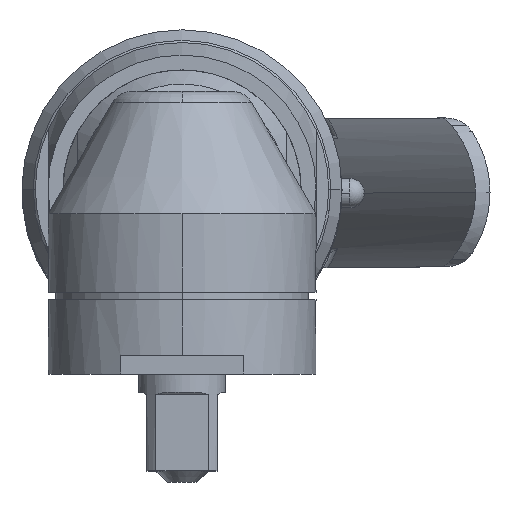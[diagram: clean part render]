
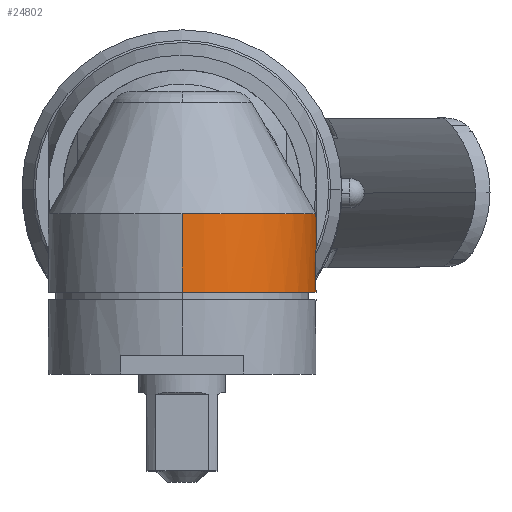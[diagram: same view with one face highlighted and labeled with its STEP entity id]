
A CAD part, top view. The second image highlights one B-rep face of the part: STEP entity #24802.
In plain terms, the highlighted cylindrical face has radius 18 mm (diameter 36 mm), a partial arc.
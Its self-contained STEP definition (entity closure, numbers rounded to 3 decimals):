
#11135 = CARTESIAN_POINT ( 'NONE',  ( 0., -14., 18. ) ) ;
#11136 = CARTESIAN_POINT ( 'NONE',  ( 0., -14., -18. ) ) ;
#11203 = CYLINDRICAL_SURFACE ( 'NONE', #11263, 18. ) ;
#11204 = FACE_OUTER_BOUND ( 'NONE', #24803, .T. ) ;
#11211 = CARTESIAN_POINT ( 'NONE',  ( 0., -3.454, 18. ) ) ;
#11212 = DIRECTION ( 'NONE',  ( 0., 1., 0. ) ) ;
#11213 = VECTOR ( 'NONE', #11212, 1000. ) ;
#11214 = CARTESIAN_POINT ( 'NONE',  ( 0., 18.453, 18. ) ) ;
#11215 = LINE ( 'NONE', #11214, #11213 ) ;
#11232 = B_SPLINE_CURVE_WITH_KNOTS ( 'NONE', 3,
 ( #11291, #11290, #11289, #11288, #11287, #11286, #11285, #11284, #11283, #11282, #11281, #11280, #11279, #11278, #11277, #11276, #11275, #11274, #11273, #11272, #11271, #11270, #11269, #11268 ),
 .UNSPECIFIED., .F., .F.,
 ( 4, 2, 2, 2, 2, 2, 2, 2, 2, 2, 2, 4 ),
 ( 0.02, 0.022, 0.023, 0.024, 0.027, 0.029, 0.031, 0.032, 0.034, 0.035, 0.037, 0.039 ),
 .UNSPECIFIED. ) ;
#11233 = DIRECTION ( 'NONE',  ( 0., 0., 1. ) ) ;
#11234 = DIRECTION ( 'NONE',  ( 0., 1., 0. ) ) ;
#11235 = CARTESIAN_POINT ( 'NONE',  ( 0., -14., 0. ) ) ;
#11236 = AXIS2_PLACEMENT_3D ( 'NONE', #11235, #11234, #11233 ) ;
#11237 = CIRCLE ( 'NONE', #11236, 18. ) ;
#11260 = DIRECTION ( 'NONE',  ( 0., 0., 1. ) ) ;
#11261 = DIRECTION ( 'NONE',  ( 0., 1., 0. ) ) ;
#11262 = CARTESIAN_POINT ( 'NONE',  ( 0., 18.453, 0. ) ) ;
#11263 = AXIS2_PLACEMENT_3D ( 'NONE', #11262, #11261, #11260 ) ;
#11267 = CIRCLE ( 'NONE', #11309, 18. ) ;
#11268 = CARTESIAN_POINT ( 'NONE',  ( 13.567, -3.454, -11.829 ) ) ;
#11269 = CARTESIAN_POINT ( 'NONE',  ( 13.371, -4.224, -12.054 ) ) ;
#11270 = CARTESIAN_POINT ( 'NONE',  ( 13.117, -4.953, -12.335 ) ) ;
#11271 = CARTESIAN_POINT ( 'NONE',  ( 12.655, -5.999, -12.802 ) ) ;
#11272 = CARTESIAN_POINT ( 'NONE',  ( 12.488, -6.339, -12.965 ) ) ;
#11273 = CARTESIAN_POINT ( 'NONE',  ( 12.133, -6.996, -13.299 ) ) ;
#11274 = CARTESIAN_POINT ( 'NONE',  ( 11.943, -7.314, -13.47 ) ) ;
#11275 = CARTESIAN_POINT ( 'NONE',  ( 11.341, -8.242, -13.988 ) ) ;
#11276 = CARTESIAN_POINT ( 'NONE',  ( 10.894, -8.825, -14.342 ) ) ;
#11277 = CARTESIAN_POINT ( 'NONE',  ( 10.149, -9.651, -14.869 ) ) ;
#11278 = CARTESIAN_POINT ( 'NONE',  ( 9.888, -9.918, -15.044 ) ) ;
#11279 = CARTESIAN_POINT ( 'NONE',  ( 9.346, -10.43, -15.387 ) ) ;
#11280 = CARTESIAN_POINT ( 'NONE',  ( 9.065, -10.676, -15.554 ) ) ;
#11281 = CARTESIAN_POINT ( 'NONE',  ( 8.189, -11.38, -16.043 ) ) ;
#11282 = CARTESIAN_POINT ( 'NONE',  ( 7.562, -11.807, -16.351 ) ) ;
#11283 = CARTESIAN_POINT ( 'NONE',  ( 6.212, -12.57, -16.91 ) ) ;
#11284 = CARTESIAN_POINT ( 'NONE',  ( 5.503, -12.897, -17.155 ) ) ;
#11285 = CARTESIAN_POINT ( 'NONE',  ( 4.387, -13.301, -17.462 ) ) ;
#11286 = CARTESIAN_POINT ( 'NONE',  ( 4.005, -13.421, -17.553 ) ) ;
#11287 = CARTESIAN_POINT ( 'NONE',  ( 3.223, -13.63, -17.714 ) ) ;
#11288 = CARTESIAN_POINT ( 'NONE',  ( 2.828, -13.717, -17.781 ) ) ;
#11289 = CARTESIAN_POINT ( 'NONE',  ( 1.633, -13.928, -17.944 ) ) ;
#11290 = CARTESIAN_POINT ( 'NONE',  ( 0.823, -14., -18. ) ) ;
#11291 = CARTESIAN_POINT ( 'NONE',  ( 0., -14., -18. ) ) ;
#11307 = DIRECTION ( 'NONE',  ( 0., 0., 1. ) ) ;
#11308 = DIRECTION ( 'NONE',  ( 0., 1., 0. ) ) ;
#11309 = AXIS2_PLACEMENT_3D ( 'NONE', #11315, #11308, #11307 ) ;
#11310 = CARTESIAN_POINT ( 'NONE',  ( 13.567, -3.454, -11.829 ) ) ;
#11315 = CARTESIAN_POINT ( 'NONE',  ( 0., -3.454, 0. ) ) ;
#24742 = VERTEX_POINT ( 'NONE', #11136 ) ;
#24743 = VERTEX_POINT ( 'NONE', #11135 ) ;
#24796 = EDGE_CURVE ( 'NONE', #24743, #24797, #11215, .T. ) ;
#24797 = VERTEX_POINT ( 'NONE', #11211 ) ;
#24802 = ADVANCED_FACE ( 'NONE', ( #11204 ), #11203, .T. ) ;
#24803 = EDGE_LOOP ( 'NONE', ( #24804, #24805, #24807, #24864 ) ) ;
#24804 = ORIENTED_EDGE ( 'NONE', *, *, #24796, .F. ) ;
#24805 = ORIENTED_EDGE ( 'NONE', *, *, #24806, .T. ) ;
#24806 = EDGE_CURVE ( 'NONE', #24743, #24742, #11237, .T. ) ;
#24807 = ORIENTED_EDGE ( 'NONE', *, *, #24808, .T. ) ;
#24808 = EDGE_CURVE ( 'NONE', #24742, #24819, #11232, .T. ) ;
#24818 = EDGE_CURVE ( 'NONE', #24797, #24819, #11267, .T. ) ;
#24819 = VERTEX_POINT ( 'NONE', #11310 ) ;
#24864 = ORIENTED_EDGE ( 'NONE', *, *, #24818, .F. ) ;
